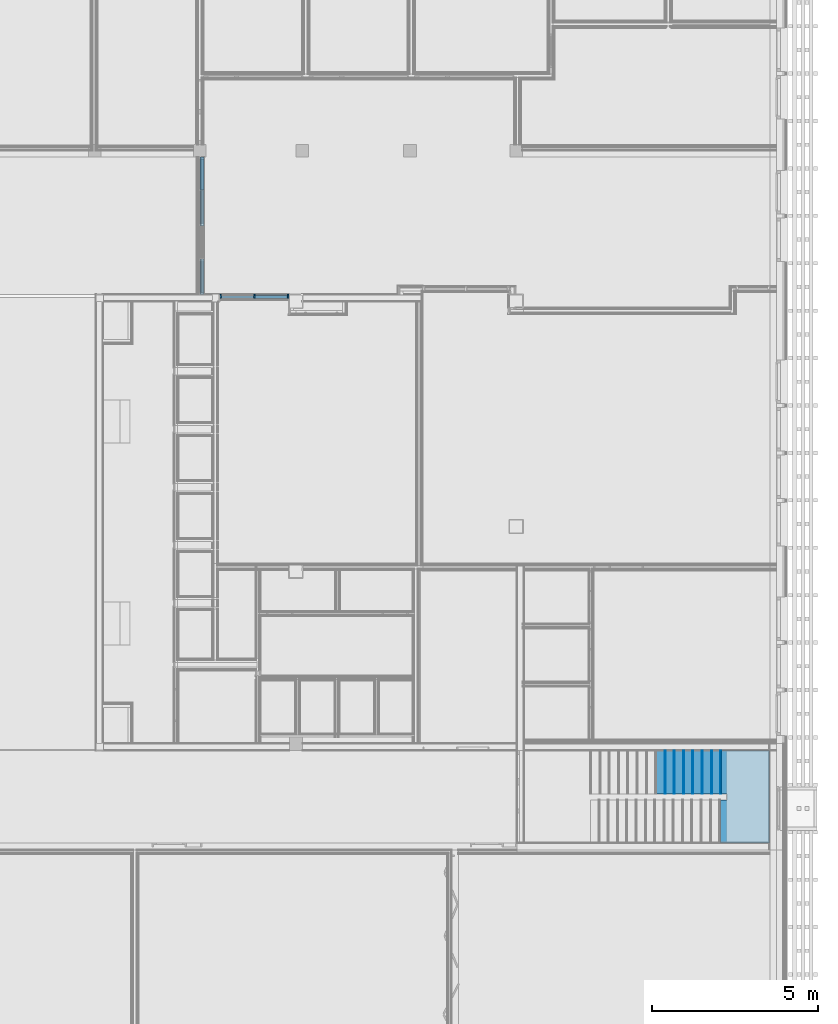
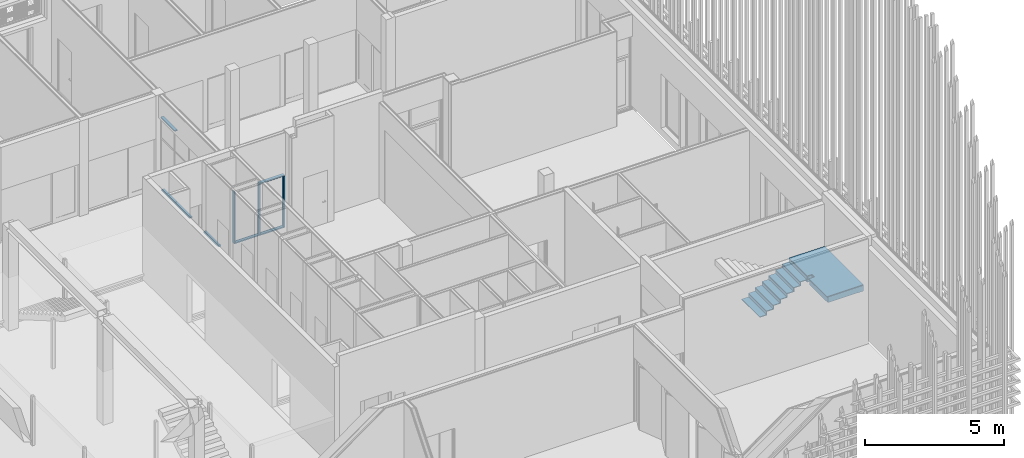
# One storey, part 88 of 260: 26 members, 3 elements without a shape of their own.
"""IFC2X3 building model written with IfcOpenShell, lengths in millimetres."""

from ifc_helpers import new_model, entity, si_unit, converted_unit, derived_unit, money_unit, direction, frame, origin_with_axes, place, context, subcontext, project, spatial, faceted_brep, material, type_object, element, aggregate, save


model = new_model("IFC2X3")

# Units and contexts
model_context = context("Model", 3, precision=0.01, world=origin_with_axes(), true_north=direction((0.0, 1.0)))
body_context = subcontext(model_context, "Body", "Model", "MODEL_VIEW")
ifc_project = project(units=[si_unit("LENGTHUNIT", "METRE", prefix="MILLI"), si_unit("AREAUNIT", "SQUARE_METRE"), si_unit("VOLUMEUNIT", "CUBIC_METRE"), converted_unit("PLANEANGLEUNIT", "DEGREE", entity("IfcPlaneAngleMeasure", 0.0174532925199), si_unit("PLANEANGLEUNIT", "RADIAN"), dimensions=[0, 0, 0, 0, 0, 0, 0]), money_unit("EUR"), converted_unit("TIMEUNIT", "Year", entity("IfcTimeMeasure", 31556926.0), si_unit("TIMEUNIT", "SECOND"), dimensions=[0, 0, 1, 0, 0, 0, 0]), si_unit("MASSUNIT", "GRAM", prefix="KILO"), si_unit("THERMODYNAMICTEMPERATUREUNIT", "DEGREE_CELSIUS"), si_unit("LUMINOUSINTENSITYUNIT", "LUMEN"), si_unit("ENERGYUNIT", "JOULE", prefix="MEGA"), derived_unit("THERMALCONDUCTANCEUNIT", [(si_unit("POWERUNIT", "WATT"), 1), (si_unit("LENGTHUNIT", "METRE"), -1), (si_unit("THERMODYNAMICTEMPERATUREUNIT", "KELVIN"), -1)]), derived_unit("SPECIFICHEATCAPACITYUNIT", [(si_unit("ENERGYUNIT", "JOULE"), 1), (si_unit("MASSUNIT", "GRAM", prefix="KILO"), -1), (si_unit("THERMODYNAMICTEMPERATUREUNIT", "KELVIN"), -1)]), derived_unit("MASSDENSITYUNIT", [(si_unit("MASSUNIT", "GRAM", prefix="KILO"), 1), (si_unit("VOLUMEUNIT", "CUBIC_METRE"), -1)])], contexts=[model_context])

# Site, building, storey
site_placement = place(None, origin_with_axes())
site = spatial("IfcSite", under=ifc_project, at=site_placement, Name="Kolde pst 67a", CompositionType="ELEMENT")
building_placement = place(site_placement, origin_with_axes())
building = spatial("IfcBuilding", under=site, at=building_placement, Name="Riigigümnaasium", CompositionType="ELEMENT")
storey_placement = place(building_placement, origin_with_axes())
storey = spatial("IfcBuildingStorey", under=building, at=storey_placement, Name="1. korrus", CompositionType="ELEMENT", Elevation=0.0)

# Stair, members
stair_placement = place(storey_placement, frame((79109.6162467, 9409.92811689, 0.0), z_axis=(0.0, 0.0, 1.0), x_axis=(0.9999999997, 2.4513383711e-05, 0.0)))
stair = element("IfcStair", 1, at=stair_placement, inside=storey, Name="TREPP", ShapeType="NOTDEFINED")
ifc_material_1 = material(Name="_KANDETARIND - raudbetoon C25/30 vastavalt EK osale")
member_type_1 = type_object("IfcMemberType", Name="IfcMember", PredefinedType="USERDEFINED")
member_1_placement = place(stair_placement, origin_with_axes())
member_1 = element("IfcMember", 2, at=member_1_placement, type_object=member_type_1, material=ifc_material_1, Name="TM KONSTRUKTSIOON - 006", ObjectType="Stair Structure", context=body_context, shape_type="Brep", body=[
    faceted_brep([(3839.86325093, -200.053860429, 2349.31034483), (3645.54169695, -200.04909695, 2349.31034483), (3645.54016422, -1500.04894698, 2349.31034483), (5119.96037017, -1500.05072827, 2349.31034483), (5120.0223424, 1279.93111331, 2349.31034483), (3670.01715055, 1279.95063188, 2349.31034483), (3669.99962766, -20.0492588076, 2349.31034483), (3839.86766335, -20.0534228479, 2349.31034483), (3839.86325093, -200.053860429, 2099.31034483), (3645.54169695, -200.04909695, 2099.31034483), (3645.54016422, -1500.04894698, 2099.31034483), (5119.96037017, -1500.05072827, 2099.31034483), (5120.0223424, 1279.93111331, 2099.31034483), (3640.01721975, 1279.95103888, 2099.31034483), (3640.01721975, 1279.95103574, 2190.68965517), (3670.01715055, 1279.95063188, 2190.68965517), (3669.99962766, -20.0492588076, 2190.68965517), (3639.9999542, -20.0485234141, 2190.68965517), (3639.9999542, -20.0485234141, 2099.31034483), (3839.86766335, -20.0534228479, 2099.31034483)], [[[0, 1, 2, 3, 4, 5, 6, 7]], [[1, 0, 8, 9]], [[1, 9, 10, 2]], [[11, 3, 2, 10]], [[11, 12, 4, 3]], [[13, 14, 15, 5, 4, 12]], [[16, 6, 5, 15]], [[7, 6, 16, 17, 18, 19]], [[0, 7, 19, 8]], [[19, 18, 13, 12, 11, 10, 9, 8]], [[18, 17, 14, 13]], [[17, 16, 15, 14]]]),
])
ifc_material_2 = material(Name="_VIIMISTLUSKIHT - viimistlus vastavalt SA osale")
member_type_2 = type_object("IfcMemberType", Name="IfcMember", PredefinedType="USERDEFINED")
member_2_placement = place(stair_placement, frame((1960.00874286, 649.973636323, 1397.5862069), z_axis=(0.0, 0.0, 1.0), x_axis=(1.34508253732e-05, 0.99999999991, 0.0)))
member_2 = element("IfcMember", 3, at=member_2_placement, type_object=member_type_2, material=ifc_material_2, Name="TV TÕUS - 154", ObjectType="Stair Riser", context=body_context, shape_type="Brep", body=[
    faceted_brep([(630.0, 0.0, 0.0), (-670.0, 0.0, 0.0), (-670.0, -30.0, 0.0), (630.0, -30.0, 0.0), (630.0, 0.0, -128.620689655), (-670.0, 0.0, -128.620689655), (-670.0, -30.0, -128.620689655), (630.0, -30.0, -128.620689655)], [[[0, 1, 2, 3]], [[4, 5, 1, 0]], [[1, 5, 6, 2]], [[3, 2, 6, 7]], [[0, 3, 7, 4]], [[7, 6, 5, 4]]]),
])
member_3_placement = place(stair_placement, frame((2240.00874283, 649.969870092, 1556.20689655), z_axis=(0.0, 0.0, 1.0), x_axis=(1.34508253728e-05, 0.99999999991, 0.0)))
member_3 = element("IfcMember", 4, at=member_3_placement, type_object=member_type_2, material=ifc_material_2, Name="TV TÕUS - 155", ObjectType="Stair Riser", context=body_context, shape_type="Brep", body=[
    faceted_brep([(630.0, 0.0, 0.0), (-670.0, 0.0, 0.0), (-670.0, -30.0, 0.0), (630.0, -30.0, 0.0), (630.0, 0.0, -128.620689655), (-670.0, 0.0, -128.620689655), (-670.0, -30.0, -128.620689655), (630.0, -30.0, -128.620689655)], [[[0, 1, 2, 3]], [[4, 5, 1, 0]], [[1, 5, 6, 2]], [[3, 2, 6, 7]], [[0, 3, 7, 4]], [[7, 6, 5, 4]]]),
])
member_4_placement = place(stair_placement, frame((2520.00874281, 649.966103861, 1714.82758621), z_axis=(0.0, 0.0, 1.0), x_axis=(1.34508253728e-05, 0.99999999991, 0.0)))
member_4 = element("IfcMember", 5, at=member_4_placement, type_object=member_type_2, material=ifc_material_2, Name="TV TÕUS - 156", ObjectType="Stair Riser", context=body_context, shape_type="Brep", body=[
    faceted_brep([(630.0, 0.0, 0.0), (-670.0, 0.0, 0.0), (-670.0, -30.0, 0.0), (630.0, -30.0, 0.0), (630.0, 0.0, -128.620689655), (-670.0, 0.0, -128.620689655), (-670.0, -30.0, -128.620689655), (630.0, -30.0, -128.620689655)], [[[0, 1, 2, 3]], [[4, 5, 1, 0]], [[1, 5, 6, 2]], [[3, 2, 6, 7]], [[0, 3, 7, 4]], [[7, 6, 5, 4]]]),
])
member_5_placement = place(stair_placement, frame((2800.00874278, 649.96233763, 1873.44827586), z_axis=(0.0, 0.0, 1.0), x_axis=(1.34508253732e-05, 0.99999999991, 0.0)))
member_5 = element("IfcMember", 6, at=member_5_placement, type_object=member_type_2, material=ifc_material_2, Name="TV TÕUS - 157", ObjectType="Stair Riser", context=body_context, shape_type="Brep", body=[
    faceted_brep([(630.0, 0.0, 0.0), (-670.0, 0.0, 0.0), (-670.0, -30.0, 0.0), (630.0, -30.0, 0.0), (630.0, 0.0, -128.620689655), (-670.0, 0.0, -128.620689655), (-670.0, -30.0, -128.620689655), (630.0, -30.0, -128.620689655)], [[[0, 1, 2, 3]], [[4, 5, 1, 0]], [[1, 5, 6, 2]], [[3, 2, 6, 7]], [[0, 3, 7, 4]], [[7, 6, 5, 4]]]),
])
member_6_placement = place(stair_placement, frame((3080.00874276, 649.958571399, 2032.06896552), z_axis=(0.0, 0.0, 1.0), x_axis=(1.34508253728e-05, 0.99999999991, 0.0)))
member_6 = element("IfcMember", 7, at=member_6_placement, type_object=member_type_2, material=ifc_material_2, Name="TV TÕUS - 158", ObjectType="Stair Riser", context=body_context, shape_type="Brep", body=[
    faceted_brep([(630.0, 0.0, 0.0), (-670.0, 0.0, 0.0), (-670.0, -30.0, 0.0), (630.0, -30.0, 0.0), (630.0, 0.0, -128.620689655), (-670.0, 0.0, -128.620689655), (-670.0, -30.0, -128.620689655), (630.0, -30.0, -128.620689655)], [[[0, 1, 2, 3]], [[4, 5, 1, 0]], [[1, 5, 6, 2]], [[3, 2, 6, 7]], [[0, 3, 7, 4]], [[7, 6, 5, 4]]]),
])
member_7_placement = place(stair_placement, frame((3360.00874273, 649.954805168, 2190.68965517), z_axis=(0.0, 0.0, 1.0), x_axis=(1.34508253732e-05, 0.99999999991, 0.0)))
member_7 = element("IfcMember", 8, at=member_7_placement, type_object=member_type_2, material=ifc_material_2, Name="TV TÕUS - 159", ObjectType="Stair Riser", context=body_context, shape_type="Brep", body=[
    faceted_brep([(630.0, 0.0, 0.0), (-670.0, 0.0, 0.0), (-670.0, -30.0, 0.0), (630.0, -30.0, 0.0), (630.0, 0.0, -128.620689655), (-670.0, 0.0, -128.620689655), (-670.0, -30.0, -128.620689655), (630.0, -30.0, -128.620689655)], [[[0, 1, 2, 3]], [[4, 5, 1, 0]], [[1, 5, 6, 2]], [[3, 2, 6, 7]], [[0, 3, 7, 4]], [[7, 6, 5, 4]]]),
])
member_8_placement = place(stair_placement, frame((3640.00874271, 649.951038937, 2349.31034483), z_axis=(0.0, 0.0, 1.0), x_axis=(1.34508253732e-05, 0.99999999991, 0.0)))
member_8 = element("IfcMember", 9, at=member_8_placement, type_object=member_type_2, material=ifc_material_2, Name="SL RISER - 006", ObjectType="Stair Riser", context=body_context, shape_type="Brep", body=[
    faceted_brep([(-670.0, -30.0, 0.0), (630.0, -30.0, 0.0), (630.0, 0.0, 0.0), (-670.0, 0.0, 0.0), (-670.0, -30.0, -128.620689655), (630.0, -30.0, -128.620689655), (630.0, 0.0, -128.620689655), (-670.0, 0.0, -128.620689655)], [[[0, 1, 2, 3]], [[4, 5, 1, 0]], [[5, 6, 2, 1]], [[3, 2, 6, 7]], [[4, 0, 3, 7]], [[7, 6, 5, 4]]]),
])
member_type_3 = type_object("IfcMemberType", Name="IfcMember", PredefinedType="USERDEFINED")
member_9_placement = place(stair_placement, frame((1680.00874288, 649.977402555, 1268.96551724), z_axis=(0.0, 0.0, 1.0), x_axis=(1.34508253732e-05, 0.99999999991, 0.0)))
member_9 = element("IfcMember", 10, at=member_9_placement, type_object=member_type_3, material=ifc_material_2, Name="TV ASTE - 153", ObjectType="Stair Tread", context=body_context, shape_type="Brep", body=[
    faceted_brep([(-670.0, 0.0, -30.0), (-670.0, 0.0, 0.0), (630.0, 0.0, 0.0), (630.0, 0.0, -30.0), (-670.0, -309.999993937, -30.0), (-670.0, -309.999993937, 0.0), (630.0, -310.00000041, 0.0), (630.0, -310.00000041, -30.0)], [[[0, 1, 2, 3]], [[4, 5, 1, 0]], [[1, 5, 6, 2]], [[3, 2, 6, 7]], [[0, 3, 7, 4]], [[7, 6, 5, 4]]]),
])
member_10_placement = place(stair_placement, frame((1960.00874286, 649.973636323, 1427.5862069), z_axis=(0.0, 0.0, 1.0), x_axis=(1.34508253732e-05, 0.99999999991, 0.0)))
member_10 = element("IfcMember", 11, at=member_10_placement, type_object=member_type_3, material=ifc_material_2, Name="TV ASTE - 154", ObjectType="Stair Tread", context=body_context, shape_type="Brep", body=[
    faceted_brep([(-670.0, 0.0, -30.0), (-670.0, 0.0, 0.0), (630.0, 0.0, 0.0), (630.0, 0.0, -30.0), (-670.0, -309.999993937, -30.0), (-670.0, -309.999993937, 0.0), (630.0, -310.00000041, 0.0), (630.0, -310.00000041, -30.0)], [[[0, 1, 2, 3]], [[4, 5, 1, 0]], [[1, 5, 6, 2]], [[3, 2, 6, 7]], [[0, 3, 7, 4]], [[7, 6, 5, 4]]]),
])
member_11_placement = place(stair_placement, frame((2240.00874283, 649.969870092, 1586.20689655), z_axis=(0.0, 0.0, 1.0), x_axis=(1.34508253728e-05, 0.99999999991, 0.0)))
member_11 = element("IfcMember", 12, at=member_11_placement, type_object=member_type_3, material=ifc_material_2, Name="TV ASTE - 155", ObjectType="Stair Tread", context=body_context, shape_type="Brep", body=[
    faceted_brep([(-670.0, 0.0, -30.0), (-670.0, 0.0, 0.0), (630.0, 0.0, 0.0), (630.0, 0.0, -30.0), (-670.0, -309.999993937, -30.0), (-670.0, -309.999993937, 0.0), (630.0, -310.00000041, 0.0), (630.0, -310.00000041, -30.0)], [[[0, 1, 2, 3]], [[4, 5, 1, 0]], [[1, 5, 6, 2]], [[3, 2, 6, 7]], [[0, 3, 7, 4]], [[7, 6, 5, 4]]]),
])
member_12_placement = place(stair_placement, frame((2520.00874281, 649.966103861, 1744.82758621), z_axis=(0.0, 0.0, 1.0), x_axis=(1.34508253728e-05, 0.99999999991, 0.0)))
member_12 = element("IfcMember", 13, at=member_12_placement, type_object=member_type_3, material=ifc_material_2, Name="TV ASTE - 156", ObjectType="Stair Tread", context=body_context, shape_type="Brep", body=[
    faceted_brep([(-670.0, 0.0, -30.0), (-670.0, 0.0, 0.0), (630.0, 0.0, 0.0), (630.0, 0.0, -30.0), (-670.0, -309.999993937, -30.0), (-670.0, -309.999993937, 0.0), (630.0, -310.00000041, 0.0), (630.0, -310.00000041, -30.0)], [[[0, 1, 2, 3]], [[4, 5, 1, 0]], [[1, 5, 6, 2]], [[3, 2, 6, 7]], [[0, 3, 7, 4]], [[7, 6, 5, 4]]]),
])
member_13_placement = place(stair_placement, frame((2800.00874278, 649.96233763, 1903.44827586), z_axis=(0.0, 0.0, 1.0), x_axis=(1.34508253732e-05, 0.99999999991, 0.0)))
member_13 = element("IfcMember", 14, at=member_13_placement, type_object=member_type_3, material=ifc_material_2, Name="TV ASTE - 157", ObjectType="Stair Tread", context=body_context, shape_type="Brep", body=[
    faceted_brep([(-670.0, 0.0, -30.0), (-670.0, 0.0, 0.0), (630.0, 0.0, 0.0), (630.0, 0.0, -30.0), (-670.0, -309.999993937, -30.0), (-670.0, -309.999993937, 0.0), (630.0, -310.00000041, 0.0), (630.0, -310.00000041, -30.0)], [[[0, 1, 2, 3]], [[4, 5, 1, 0]], [[1, 5, 6, 2]], [[3, 2, 6, 7]], [[0, 3, 7, 4]], [[7, 6, 5, 4]]]),
])
member_14_placement = place(stair_placement, frame((3080.00874276, 649.958571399, 2062.06896552), z_axis=(0.0, 0.0, 1.0), x_axis=(1.34508253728e-05, 0.99999999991, 0.0)))
member_14 = element("IfcMember", 15, at=member_14_placement, type_object=member_type_3, material=ifc_material_2, Name="TV ASTE - 158", ObjectType="Stair Tread", context=body_context, shape_type="Brep", body=[
    faceted_brep([(-670.0, 0.0, -30.0), (-670.0, 0.0, 0.0), (630.0, 0.0, 0.0), (630.0, 0.0, -30.0), (-670.0, -309.999993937, -30.0), (-670.0, -309.999993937, 0.0), (630.0, -310.00000041, 0.0), (630.0, -310.00000041, -30.0)], [[[0, 1, 2, 3]], [[4, 5, 1, 0]], [[1, 5, 6, 2]], [[3, 2, 6, 7]], [[0, 3, 7, 4]], [[7, 6, 5, 4]]]),
])
member_15_placement = place(stair_placement, frame((3360.00874273, 649.954805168, 2220.68965517), z_axis=(0.0, 0.0, 1.0), x_axis=(1.34508253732e-05, 0.99999999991, 0.0)))
member_15 = element("IfcMember", 16, at=member_15_placement, type_object=member_type_3, material=ifc_material_2, Name="TV ASTE - 159", ObjectType="Stair Tread", context=body_context, shape_type="Brep", body=[
    faceted_brep([(630.0, 0.0, 0.0), (630.0, 0.0, -30.0), (-670.0, 0.0, -30.0), (-670.0, 0.0, 0.0), (630.0, -310.000000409, 0.0), (630.0, -310.000000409, -30.0), (-670.000004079, -309.999819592, -30.0), (-670.0, -279.999823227, -30.0), (-670.0, -279.999823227, 0.0), (-670.000004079, -309.999819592, 0.0)], [[[0, 1, 2, 3]], [[4, 5, 1, 0]], [[6, 7, 2, 1, 5]], [[3, 2, 7, 8]], [[4, 0, 3, 8, 9]], [[9, 6, 5, 4]], [[8, 7, 6, 9]]]),
])
member_16_placement = place(stair_placement, frame((3640.00874271, 649.951038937, 2379.31034483), z_axis=(0.0, 0.0, 1.0), x_axis=(1.34508253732e-05, 0.99999999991, 0.0)))
member_16 = element("IfcMember", 17, at=member_16_placement, type_object=member_type_3, material=ifc_material_2, Name="SL TREAD - 006", ObjectType="Stair Tread", context=body_context, shape_type="Brep", body=[
    faceted_brep([(-2150.00034802, 29.9858340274, 0.0), (-2150.00034802, 29.9858340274, -30.0), (-2149.98186044, -1479.98054662, -30.0), (-2149.98186044, -1479.98054662, 0.0), (-850.000348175, 30.0017873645, 0.0), (-850.000348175, 30.0017873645, -30.0), (630.0, -3.02374303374e-06, -30.0), (629.999981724, -1480.00512581, -30.0), (-849.997573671, -199.866335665, -30.0), (-670.001773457, -199.867932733, -30.0), (-670.000000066, 0.000158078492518, -30.0), (629.999981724, -1480.00512581, 0.0), (630.0, -3.02374303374e-06, 0.0), (-670.000000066, 0.000158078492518, 0.0), (-670.001773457, -199.867932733, 0.0), (-849.997573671, -199.866335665, 0.0)], [[[0, 1, 2, 3]], [[4, 5, 1, 0]], [[6, 7, 2, 1, 5, 8, 9, 10]], [[3, 2, 7, 11]], [[4, 0, 3, 11, 12, 13, 14, 15]], [[15, 8, 5, 4]], [[11, 7, 6, 12]], [[14, 9, 8, 15]], [[13, 10, 9, 14]], [[12, 6, 10, 13]]]),
])
aggregate(stair, [member_1, member_2, member_3, member_4, member_5, member_6, member_7, member_8, member_9, member_10, member_11, member_12, member_13, member_14, member_15, member_16])

# Curtain wall, members
curtain_wall_type = type_object("IfcCurtainWallType", Name="Curtain Wall Type", PredefinedType="NOTDEFINED")
curtain_wall_1_placement = place(storey_placement, frame((67073.6436674, 24969.9980242, -4.39663916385e-06), z_axis=(0.0, 0.0, 1.0), x_axis=(1.0, 0.0, 0.0)))
curtain_wall_1 = element("IfcCurtainWall", 18, at=curtain_wall_1_placement, inside=storey, type_object=curtain_wall_type, Name="KLAASSEIN")
ifc_material_3 = material(Name="_METALL - alumiinium")
member_type_4 = type_object("IfcMemberType", Name="Boundary Frame 50 x 120", PredefinedType="MEMBER")
member_17_placement = place(curtain_wall_1_placement, frame((0.0, -525.0, -5.61735502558e-06), z_axis=(0.0, 1.0, 0.0), x_axis=(0.0, 0.0, 1.0)))
member_17 = element("IfcMember", 19, at=member_17_placement, type_object=member_type_4, material=ifc_material_3, Name="RF RAAM SERV-008", ObjectType="MEMBER", context=body_context, shape_type="Brep", body=[
    faceted_brep([(30.0, -10.0, 30.0), (30.0, 10.0, 30.0), (30.0, 10.0, 1075.0), (30.0, -10.0, 1075.0), (20.0, -10.0, 20.0), (20.0, 10.0, 20.0), (20.0, 10.0, 1075.0), (20.0, -10.0, 1075.0)], [[[0, 1, 2, 3]], [[1, 0, 4, 5]], [[1, 5, 6, 2]], [[2, 6, 7, 3]], [[4, 0, 3, 7]], [[5, 4, 7, 6]]]),
    faceted_brep([(20.0, -10.0, 20.0), (20.0, 10.0, 20.0), (20.0, 10.0, 1075.0), (20.0, -10.0, 1075.0), (0.0, -10.0, 0.0), (0.0, 10.0, 0.0), (0.0, 10.0, 1075.0), (0.0, -10.0, 1075.0)], [[[0, 1, 2, 3]], [[1, 0, 4, 5]], [[1, 5, 6, 2]], [[2, 6, 7, 3]], [[4, 0, 3, 7]], [[5, 4, 7, 6]]]),
    faceted_brep([(50.0, 10.0, 50.0), (50.0, 100.0, 50.0), (50.0, 100.0, 1075.0), (50.0, 10.0, 1075.0), (0.0, 10.0, 0.0), (0.0, 100.0, 0.0), (0.0, 100.0, 1075.0), (0.0, 10.0, 1075.0)], [[[0, 1, 2, 3]], [[1, 0, 4, 5]], [[1, 5, 6, 2]], [[2, 6, 7, 3]], [[4, 0, 3, 7]], [[5, 4, 7, 6]]]),
    faceted_brep([(0.0, -10.0, 0.0), (0.0, -20.0, 0.0), (0.0, -20.0, 1075.0), (0.0, -10.0, 1075.0), (50.0, -10.0, 50.0), (50.0, -20.0, 50.0), (50.0, -20.0, 1075.0), (50.0, -10.0, 1075.0)], [[[0, 1, 2, 3]], [[1, 0, 4, 5]], [[1, 5, 6, 2]], [[2, 6, 7, 3]], [[4, 0, 3, 7]], [[5, 4, 7, 6]]]),
])
member_18_placement = place(curtain_wall_1_placement, frame((0.0, 1575.0, -5.61735502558e-06), z_axis=(0.0, 1.0, 0.0), x_axis=(0.0, 0.0, 1.0)))
member_18 = element("IfcMember", 20, at=member_18_placement, type_object=member_type_4, material=ifc_material_3, Name="RF RAAM SERV-010", ObjectType="MEMBER", context=body_context, shape_type="Brep", body=[
    faceted_brep([(30.0, 10.0, -25.0), (30.0, 10.0, 1050.0), (30.0, -10.0, 1050.0), (30.0, -10.0, -25.0), (20.0, 10.0, -25.0), (20.0, 10.0, 1050.0), (20.0, -10.0, 1050.0), (20.0, -10.0, -25.0)], [[[0, 1, 2, 3]], [[4, 5, 1, 0]], [[1, 5, 6, 2]], [[3, 2, 6, 7]], [[0, 3, 7, 4]], [[7, 6, 5, 4]]]),
    faceted_brep([(20.0, 10.0, -25.0), (20.0, 10.0, 1050.0), (20.0, -10.0, 1050.0), (20.0, -10.0, -25.0), (0.0, 10.0, -25.0), (0.0, 10.0, 1050.0), (0.0, -10.0, 1050.0), (0.0, -10.0, -25.0)], [[[0, 1, 2, 3]], [[4, 5, 1, 0]], [[1, 5, 6, 2]], [[3, 2, 6, 7]], [[0, 3, 7, 4]], [[7, 6, 5, 4]]]),
    faceted_brep([(50.0, 100.0, -25.0), (50.0, 100.0, 1050.0), (50.0, 10.0, 1050.0), (50.0, 10.0, -25.0), (0.0, 100.0, -25.0), (0.0, 100.0, 1050.0), (0.0, 10.0, 1050.0), (0.0, 10.0, -25.0)], [[[0, 1, 2, 3]], [[4, 5, 1, 0]], [[1, 5, 6, 2]], [[3, 2, 6, 7]], [[0, 3, 7, 4]], [[7, 6, 5, 4]]]),
    faceted_brep([(0.0, -20.0, -25.0), (0.0, -20.0, 1050.0), (0.0, -10.0, 1050.0), (0.0, -10.0, -25.0), (50.0, -20.0, -25.0), (50.0, -20.0, 1050.0), (50.0, -10.0, 1050.0), (50.0, -10.0, -25.0)], [[[0, 1, 2, 3]], [[4, 5, 1, 0]], [[1, 5, 6, 2]], [[3, 2, 6, 7]], [[0, 3, 7, 4]], [[7, 6, 5, 4]]]),
])
member_19_placement = place(curtain_wall_1_placement, frame((0.0, 2625.0, -5.61735502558e-06), z_axis=(0.0, 1.0, 0.0), x_axis=(0.0, 0.0, 1.0)))
member_19 = element("IfcMember", 21, at=member_19_placement, type_object=member_type_4, material=ifc_material_3, Name="RF RAAM SERV-011", ObjectType="MEMBER", context=body_context, shape_type="Brep", body=[
    faceted_brep([(30.0, 10.0, 0.0), (30.0, 10.0, 965.001639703), (30.0, -10.0, 965.001639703), (30.0, -10.0, 0.0), (20.0, 10.0, 0.0), (20.0, 10.0, 975.001639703), (20.0, -10.0, 975.001639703), (20.0, -10.0, 0.0)], [[[0, 1, 2, 3]], [[4, 5, 1, 0]], [[1, 5, 6, 2]], [[3, 2, 6, 7]], [[0, 3, 7, 4]], [[7, 6, 5, 4]]]),
    faceted_brep([(20.0, 10.0, 0.0), (20.0, 10.0, 975.001639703), (20.0, -10.0, 975.001639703), (20.0, -10.0, 0.0), (0.0, 10.0, 0.0), (0.0, 10.0, 995.001639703), (0.0, -10.0, 995.001639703), (0.0, -10.0, 0.0)], [[[0, 1, 2, 3]], [[4, 5, 1, 0]], [[1, 5, 6, 2]], [[3, 2, 6, 7]], [[0, 3, 7, 4]], [[7, 6, 5, 4]]]),
    faceted_brep([(50.0, 100.0, 0.0), (50.0, 100.0, 945.001639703), (50.0, 10.0, 945.001639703), (50.0, 10.0, 0.0), (0.0, 100.0, 0.0), (0.0, 100.0, 995.001639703), (0.0, 10.0, 995.001639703), (0.0, 10.0, 0.0)], [[[0, 1, 2, 3]], [[4, 5, 1, 0]], [[1, 5, 6, 2]], [[3, 2, 6, 7]], [[0, 3, 7, 4]], [[7, 6, 5, 4]]]),
    faceted_brep([(0.0, -20.0, 0.0), (0.0, -20.0, 995.001639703), (0.0, -10.0, 995.001639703), (0.0, -10.0, 0.0), (50.0, -20.0, 0.0), (50.0, -20.0, 945.001639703), (50.0, -10.0, 945.001639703), (50.0, -10.0, 0.0)], [[[0, 1, 2, 3]], [[4, 5, 1, 0]], [[1, 5, 6, 2]], [[3, 2, 6, 7]], [[0, 3, 7, 4]], [[7, 6, 5, 4]]]),
])
member_20_placement = place(curtain_wall_1_placement, frame((0.0, 2625.0, 3199.99999078), z_axis=(0.0, 1.0, 0.0), x_axis=(0.0, 0.0, 1.0)))
member_20 = element("IfcMember", 22, at=member_20_placement, type_object=member_type_4, material=ifc_material_3, Name="RF RAAM SERV-014", ObjectType="MEMBER", context=body_context, shape_type="Brep", body=[
    faceted_brep([(-30.0, 10.0, 0.0), (-30.0, -10.0, 0.0), (-30.0, -10.0, 965.001639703), (-30.0, 10.0, 965.001639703), (-20.0, 10.0, 0.0), (-20.0, -10.0, 0.0), (-20.0, -10.0, 975.001639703), (-20.0, 10.0, 975.001639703)], [[[0, 1, 2, 3]], [[0, 4, 5, 1]], [[1, 5, 6, 2]], [[3, 2, 6, 7]], [[4, 0, 3, 7]], [[5, 4, 7, 6]]]),
    faceted_brep([(-20.0, 10.0, 0.0), (-20.0, -10.0, 0.0), (-20.0, -10.0, 975.001639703), (-20.0, 10.0, 975.001639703), (0.0, 10.0, 0.0), (0.0, -10.0, 0.0), (0.0, -10.0, 995.001639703), (0.0, 10.0, 995.001639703)], [[[0, 1, 2, 3]], [[0, 4, 5, 1]], [[1, 5, 6, 2]], [[3, 2, 6, 7]], [[4, 0, 3, 7]], [[5, 4, 7, 6]]]),
    faceted_brep([(-50.0, 100.0, 0.0), (-50.0, 10.0, 0.0), (-50.0, 10.0, 945.001639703), (-50.0, 100.0, 945.001639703), (0.0, 100.0, 0.0), (0.0, 10.0, 0.0), (0.0, 10.0, 995.001639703), (0.0, 100.0, 995.001639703)], [[[0, 1, 2, 3]], [[0, 4, 5, 1]], [[1, 5, 6, 2]], [[3, 2, 6, 7]], [[4, 0, 3, 7]], [[5, 4, 7, 6]]]),
    faceted_brep([(0.0, -20.0, 0.0), (0.0, -10.0, 0.0), (0.0, -10.0, 995.001639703), (0.0, -20.0, 995.001639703), (-50.0, -20.0, 0.0), (-50.0, -10.0, 0.0), (-50.0, -10.0, 945.001639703), (-50.0, -20.0, 945.001639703)], [[[0, 1, 2, 3]], [[0, 4, 5, 1]], [[1, 5, 6, 2]], [[3, 2, 6, 7]], [[4, 0, 3, 7]], [[5, 4, 7, 6]]]),
])
aggregate(curtain_wall_1, [member_17, member_18, member_19, member_20])

curtain_wall_2_placement = place(storey_placement, frame((68175.8878955, 24430.0011103, -4.39663905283e-06), z_axis=(0.0, 0.0, 1.0), x_axis=(1.0, 0.0, 0.0)))
curtain_wall_2 = element("IfcCurtainWall", 23, at=curtain_wall_2_placement, inside=storey, type_object=curtain_wall_type, Name="KLAASSEIN")
member_21_placement = place(curtain_wall_2_placement, frame((-525.0, 0.000381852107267, 0.0), z_axis=(1.0, -7.27337343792e-07, 0.0), x_axis=(0.0, 0.0, 1.0)))
member_21 = element("IfcMember", 24, at=member_21_placement, type_object=member_type_4, material=ifc_material_3, Name="RF RAAM SERV-057", ObjectType="MEMBER", context=body_context, shape_type="Brep", body=[
    faceted_brep([(30.0, -10.0, 30.0), (30.0, 10.0, 30.0), (30.0, 10.0, 1050.0), (30.0, -10.0, 1050.0), (20.0, -10.0, 20.0), (20.0, 10.0, 20.0), (20.0, 10.0, 1050.0), (20.0, -10.0, 1050.0)], [[[0, 1, 2, 3]], [[1, 0, 4, 5]], [[1, 5, 6, 2]], [[2, 6, 7, 3]], [[4, 0, 3, 7]], [[5, 4, 7, 6]]]),
    faceted_brep([(20.0, -10.0, 20.0), (20.0, 10.0, 20.0), (20.0, 10.0, 1050.0), (20.0, -10.0, 1050.0), (0.0, -10.0, 0.0), (0.0, 10.0, 0.0), (0.0, 10.0, 1050.0), (0.0, -10.0, 1050.0)], [[[0, 1, 2, 3]], [[1, 0, 4, 5]], [[1, 5, 6, 2]], [[2, 6, 7, 3]], [[4, 0, 3, 7]], [[5, 4, 7, 6]]]),
    faceted_brep([(50.0, 10.0, 50.0), (50.0, 100.0, 50.0), (50.0, 100.0, 1050.0), (50.0, 10.0, 1050.0), (0.0, 10.0, 0.0), (0.0, 100.0, 0.0), (0.0, 100.0, 1050.0), (0.0, 10.0, 1050.0)], [[[0, 1, 2, 3]], [[1, 0, 4, 5]], [[1, 5, 6, 2]], [[2, 6, 7, 3]], [[4, 0, 3, 7]], [[5, 4, 7, 6]]]),
    faceted_brep([(0.0, -10.0, 0.0), (0.0, -20.0, 0.0), (0.0, -20.0, 1050.0), (0.0, -10.0, 1050.0), (50.0, -10.0, 50.0), (50.0, -20.0, 50.0), (50.0, -20.0, 1050.0), (50.0, -10.0, 1050.0)], [[[0, 1, 2, 3]], [[1, 0, 4, 5]], [[1, 5, 6, 2]], [[2, 6, 7, 3]], [[4, 0, 3, 7]], [[5, 4, 7, 6]]]),
])
member_22_placement = place(curtain_wall_2_placement, frame((-525.0, 0.000381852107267, 0.0), z_axis=(0.0, 0.0, 1.0), x_axis=(-1.0, 7.27337343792e-07, 0.0)))
member_22 = element("IfcMember", 25, at=member_22_placement, type_object=member_type_4, material=ifc_material_3, Name="RF RAAM SERV-056", ObjectType="MEMBER", context=body_context, shape_type="Brep", body=[
    faceted_brep([(-29.9999999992, -10.0000000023, 30.0), (-29.9999999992, -10.0000000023, 2270.0), (-30.0000000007, 9.99999999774, 2270.0), (-30.0000000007, 9.99999999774, 30.0), (-19.9999999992, -10.0000000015, 20.0), (-19.9999999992, -10.0000000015, 2280.0), (-20.0000000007, 9.9999999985, 2280.0), (-20.0000000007, 9.9999999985, 20.0)], [[[0, 1, 2, 3]], [[4, 5, 1, 0]], [[2, 1, 5, 6]], [[3, 2, 6, 7]], [[3, 7, 4, 0]], [[7, 6, 5, 4]]]),
    faceted_brep([(-19.9999999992, -10.0000000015, 20.0), (-19.9999999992, -10.0000000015, 2280.0), (-20.0000000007, 9.9999999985, 2280.0), (-20.0000000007, 9.9999999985, 20.0), (7.67386154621e-10, -10.0, 0.0), (7.67386154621e-10, -10.0, 2300.0), (-7.53175299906e-10, 10.0, 2300.0), (-7.53175299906e-10, 10.0, 0.0)], [[[0, 1, 2, 3]], [[4, 5, 1, 0]], [[2, 1, 5, 6]], [[3, 2, 6, 7]], [[3, 7, 4, 0]], [[7, 6, 5, 4]]]),
    faceted_brep([(-50.0000000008, 9.99999999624, 50.0), (-50.0000000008, 9.99999999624, 2250.0), (-50.0000000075, 99.9999999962, 2250.0), (-50.0000000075, 99.9999999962, 50.0), (-7.53175299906e-10, 10.0, 0.0), (-7.53175299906e-10, 10.0, 2300.0), (-7.51754214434e-09, 100.0, 2300.0), (-7.51754214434e-09, 100.0, 0.0)], [[[0, 1, 2, 3]], [[4, 5, 1, 0]], [[2, 1, 5, 6]], [[3, 2, 6, 7]], [[3, 7, 4, 0]], [[7, 6, 5, 4]]]),
    faceted_brep([(7.67386154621e-10, -10.0, 0.0), (7.67386154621e-10, -10.0, 2300.0), (1.52056145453e-09, -20.0, 2300.0), (1.52056145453e-09, -20.0, 0.0), (-49.9999999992, -10.0000000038, 50.0), (-49.9999999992, -10.0000000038, 2250.0), (-49.9999999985, -20.0000000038, 2250.0), (-49.9999999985, -20.0000000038, 50.0)], [[[0, 1, 2, 3]], [[4, 5, 1, 0]], [[2, 1, 5, 6]], [[3, 2, 6, 7]], [[3, 7, 4, 0]], [[7, 6, 5, 4]]]),
])
member_23_placement = place(curtain_wall_2_placement, frame((1564.11115275, -0.00113763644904, 0.0), z_axis=(0.0, 0.0, 1.0), x_axis=(-1.0, 7.2733734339e-07, 0.0)))
member_23 = element("IfcMember", 26, at=member_23_placement, type_object=member_type_4, material=ifc_material_3, Name="RF RAAM SERV-059", ObjectType="MEMBER", context=body_context, shape_type="Brep", body=[
    faceted_brep([(30.0000000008, -9.99999999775, 30.0), (29.9999999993, 10.0000000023, 30.0), (29.9999999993, 10.0000000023, 2270.0), (30.0000000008, -9.99999999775, 2270.0), (20.0000000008, -9.9999999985, 20.0), (19.9999999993, 10.0000000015, 20.0), (19.9999999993, 10.0000000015, 2280.0), (20.0000000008, -9.9999999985, 2280.0)], [[[0, 1, 2, 3]], [[1, 0, 4, 5]], [[1, 5, 6, 2]], [[2, 6, 7, 3]], [[4, 0, 3, 7]], [[5, 4, 7, 6]]]),
    faceted_brep([(20.0000000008, -9.9999999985, 20.0), (19.9999999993, 10.0000000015, 20.0), (19.9999999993, 10.0000000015, 2280.0), (20.0000000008, -9.9999999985, 2280.0), (7.53175299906e-10, -10.0, 0.0), (-7.53175299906e-10, 10.0, 0.0), (-7.53175299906e-10, 10.0, 2300.0), (7.53175299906e-10, -10.0, 2300.0)], [[[0, 1, 2, 3]], [[1, 0, 4, 5]], [[1, 5, 6, 2]], [[2, 6, 7, 3]], [[4, 0, 3, 7]], [[5, 4, 7, 6]]]),
    faceted_brep([(49.9999999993, 10.0000000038, 50.0), (49.9999999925, 100.000000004, 50.0), (49.9999999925, 100.000000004, 2250.0), (49.9999999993, 10.0000000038, 2250.0), (-7.53175299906e-10, 10.0, 0.0), (-7.53175299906e-09, 100.0, 0.0), (-7.53175299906e-09, 100.0, 2300.0), (-7.53175299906e-10, 10.0, 2300.0)], [[[0, 1, 2, 3]], [[1, 0, 4, 5]], [[1, 5, 6, 2]], [[2, 6, 7, 3]], [[4, 0, 3, 7]], [[5, 4, 7, 6]]]),
    faceted_brep([(7.53175299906e-10, -10.0, 0.0), (1.50635059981e-09, -20.0, 0.0), (1.50635059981e-09, -20.0, 2300.0), (7.53175299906e-10, -10.0, 2300.0), (50.0000000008, -9.99999999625, 50.0), (50.0000000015, -19.9999999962, 50.0), (50.0000000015, -19.9999999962, 2250.0), (50.0000000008, -9.99999999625, 2250.0)], [[[0, 1, 2, 3]], [[1, 0, 4, 5]], [[1, 5, 6, 2]], [[2, 6, 7, 3]], [[4, 0, 3, 7]], [[5, 4, 7, 6]]]),
])
member_24_placement = place(curtain_wall_2_placement, frame((525.0, -0.000381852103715, 0.0), z_axis=(1.0, -7.2733734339e-07, 0.0), x_axis=(0.0, 0.0, 1.0)))
member_24 = element("IfcMember", 27, at=member_24_placement, type_object=member_type_4, material=ifc_material_3, Name="RF RAAM SERV-058", ObjectType="MEMBER", context=body_context, shape_type="Brep", body=[
    faceted_brep([(30.0, 10.0, 0.0), (30.0, 10.0, 1009.11115275), (30.0, -10.0, 1009.11115275), (30.0, -10.0, 0.0), (20.0, 10.0, 0.0), (20.0, 10.0, 1019.11115275), (20.0, -10.0, 1019.11115275), (20.0, -10.0, 0.0)], [[[0, 1, 2, 3]], [[4, 5, 1, 0]], [[1, 5, 6, 2]], [[3, 2, 6, 7]], [[0, 3, 7, 4]], [[7, 6, 5, 4]]]),
    faceted_brep([(20.0, 10.0, 0.0), (20.0, 10.0, 1019.11115275), (20.0, -10.0, 1019.11115275), (20.0, -10.0, 0.0), (0.0, 10.0, 0.0), (0.0, 10.0, 1039.11115275), (0.0, -10.0, 1039.11115275), (0.0, -10.0, 0.0)], [[[0, 1, 2, 3]], [[4, 5, 1, 0]], [[1, 5, 6, 2]], [[3, 2, 6, 7]], [[0, 3, 7, 4]], [[7, 6, 5, 4]]]),
    faceted_brep([(50.0, 100.0, 0.0), (50.0, 100.0, 989.111152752), (50.0, 10.0, 989.111152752), (50.0, 10.0, 0.0), (0.0, 100.0, 0.0), (0.0, 100.0, 1039.11115275), (0.0, 10.0, 1039.11115275), (0.0, 10.0, 0.0)], [[[0, 1, 2, 3]], [[4, 5, 1, 0]], [[1, 5, 6, 2]], [[3, 2, 6, 7]], [[0, 3, 7, 4]], [[7, 6, 5, 4]]]),
    faceted_brep([(0.0, -20.0, 0.0), (0.0, -20.0, 1039.11115275), (0.0, -10.0, 1039.11115275), (0.0, -10.0, 0.0), (50.0, -20.0, 0.0), (50.0, -20.0, 989.111152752), (50.0, -10.0, 989.111152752), (50.0, -10.0, 0.0)], [[[0, 1, 2, 3]], [[4, 5, 1, 0]], [[1, 5, 6, 2]], [[3, 2, 6, 7]], [[0, 3, 7, 4]], [[7, 6, 5, 4]]]),
])
member_25_placement = place(curtain_wall_2_placement, frame((525.0, -0.000381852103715, 2300.0), z_axis=(1.0, -7.2733734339e-07, 0.0), x_axis=(0.0, 0.0, 1.0)))
member_25 = element("IfcMember", 28, at=member_25_placement, type_object=member_type_4, material=ifc_material_3, Name="RF RAAM SERV-060", ObjectType="MEMBER", context=body_context, shape_type="Brep", body=[
    faceted_brep([(-30.0, 10.0, 0.0), (-30.0, -10.0, 0.0), (-30.0, -10.0, 1009.11115275), (-30.0, 10.0, 1009.11115275), (-20.0, 10.0, 0.0), (-20.0, -10.0, 0.0), (-20.0, -10.0, 1019.11115275), (-20.0, 10.0, 1019.11115275)], [[[0, 1, 2, 3]], [[0, 4, 5, 1]], [[1, 5, 6, 2]], [[3, 2, 6, 7]], [[4, 0, 3, 7]], [[5, 4, 7, 6]]]),
    faceted_brep([(-20.0, 10.0, 0.0), (-20.0, -10.0, 0.0), (-20.0, -10.0, 1019.11115275), (-20.0, 10.0, 1019.11115275), (0.0, 10.0, 0.0), (0.0, -10.0, 0.0), (0.0, -10.0, 1039.11115275), (0.0, 10.0, 1039.11115275)], [[[0, 1, 2, 3]], [[0, 4, 5, 1]], [[1, 5, 6, 2]], [[3, 2, 6, 7]], [[4, 0, 3, 7]], [[5, 4, 7, 6]]]),
    faceted_brep([(-50.0, 100.0, 0.0), (-50.0, 10.0, 0.0), (-50.0, 10.0, 989.111152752), (-50.0, 100.0, 989.111152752), (0.0, 100.0, 0.0), (0.0, 10.0, 0.0), (0.0, 10.0, 1039.11115275), (0.0, 100.0, 1039.11115275)], [[[0, 1, 2, 3]], [[0, 4, 5, 1]], [[1, 5, 6, 2]], [[3, 2, 6, 7]], [[4, 0, 3, 7]], [[5, 4, 7, 6]]]),
    faceted_brep([(0.0, -20.0, 0.0), (0.0, -10.0, 0.0), (0.0, -10.0, 1039.11115275), (0.0, -20.0, 1039.11115275), (-50.0, -20.0, 0.0), (-50.0, -10.0, 0.0), (-50.0, -10.0, 989.111152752), (-50.0, -20.0, 989.111152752)], [[[0, 1, 2, 3]], [[0, 4, 5, 1]], [[1, 5, 6, 2]], [[3, 2, 6, 7]], [[4, 0, 3, 7]], [[5, 4, 7, 6]]]),
])
member_type_5 = type_object("IfcMemberType", Name="Mullion Frame 50 x 125", PredefinedType="MEMBER")
member_26_placement = place(curtain_wall_2_placement, frame((525.0, -0.000381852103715, 0.0), z_axis=(0.0, 0.0, 1.0), x_axis=(-1.0, 7.27337343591e-07, 0.0)))
member_26 = element("IfcMember", 29, at=member_26_placement, type_object=member_type_5, material=ifc_material_3, Name="RF RAAM VERT-354", ObjectType="MEMBER", context=body_context, shape_type="Brep", body=[
    faceted_brep([(5.00000000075, -9.99999999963, 50.0), (4.99999999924, 10.0000000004, 50.0), (4.99999999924, 10.0000000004, 2250.0), (5.00000000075, -9.99999999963, 2250.0), (-4.99999999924, -10.0000000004, 50.0), (-5.00000000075, 9.99999999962, 50.0), (-5.00000000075, 9.99999999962, 2250.0), (-4.99999999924, -10.0000000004, 2250.0)], [[[0, 1, 2, 3]], [[1, 0, 4, 5]], [[1, 5, 6, 2]], [[2, 6, 7, 3]], [[4, 0, 3, 7]], [[5, 4, 7, 6]]]),
    faceted_brep([(24.9999999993, 10.0000000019, 50.0), (24.9999999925, 100.000000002, 50.0), (24.9999999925, 100.000000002, 2250.0), (24.9999999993, 10.0000000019, 2250.0), (-25.0000000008, 9.99999999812, 50.0), (-25.0000000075, 99.9999999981, 50.0), (-25.0000000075, 99.9999999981, 2250.0), (-25.0000000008, 9.99999999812, 2250.0)], [[[0, 1, 2, 3]], [[1, 0, 4, 5]], [[1, 5, 6, 2]], [[2, 6, 7, 3]], [[4, 0, 3, 7]], [[5, 4, 7, 6]]]),
    faceted_brep([(-24.9999999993, -10.0000000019, 50.0), (-24.9999999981, -25.0000000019, 50.0), (-24.9999999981, -25.0000000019, 2250.0), (-24.9999999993, -10.0000000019, 2250.0), (25.0000000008, -9.99999999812, 50.0), (25.0000000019, -24.9999999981, 50.0), (25.0000000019, -24.9999999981, 2250.0), (25.0000000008, -9.99999999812, 2250.0)], [[[0, 1, 2, 3]], [[1, 0, 4, 5]], [[1, 5, 6, 2]], [[2, 6, 7, 3]], [[4, 0, 3, 7]], [[5, 4, 7, 6]]]),
])
aggregate(curtain_wall_2, [member_21, member_22, member_26, member_23, member_24, member_25])

save(model, "model.ifc")
